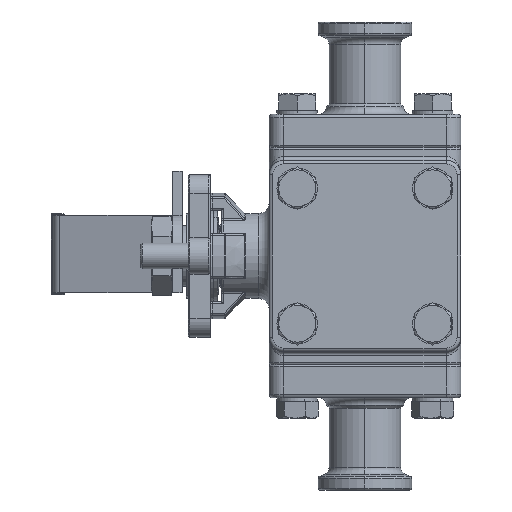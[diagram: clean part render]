
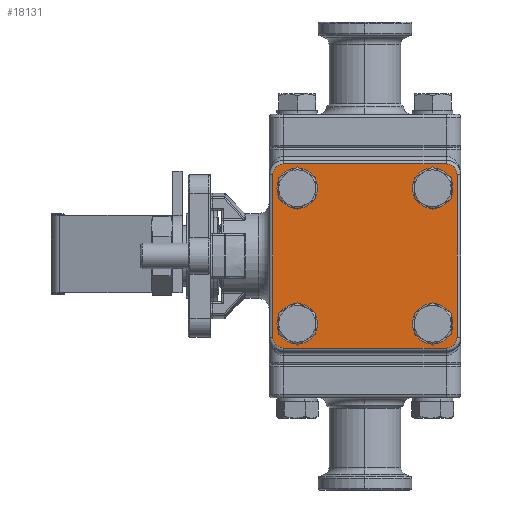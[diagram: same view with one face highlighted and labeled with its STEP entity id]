
A CAD part, left-side view. The second image highlights one B-rep face of the part: STEP entity #18131.
In plain terms, the highlighted planar face has unit normal (-1, 0, 0) as drawn and (0, 0, 1) by its records, which use the part's own axes.
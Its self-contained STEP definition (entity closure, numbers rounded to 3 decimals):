
#255 = ORIENTED_EDGE ( 'NONE', *, *, #20692, .F. ) ;
#262 = EDGE_CURVE ( 'NONE', #23547, #4030, #16100, .T. ) ;
#513 = AXIS2_PLACEMENT_3D ( 'NONE', #24172, #8201, #23720 ) ;
#992 = DIRECTION ( 'NONE',  ( 1., 0., 0. ) ) ;
#1148 = DIRECTION ( 'NONE',  ( 0., 0., 1. ) ) ;
#1431 = ORIENTED_EDGE ( 'NONE', *, *, #28093, .T. ) ;
#1566 = CARTESIAN_POINT ( 'NONE',  ( -14.635, -18.385, 5. ) ) ;
#1619 = CIRCLE ( 'NONE', #6574, 3. ) ;
#2749 = DIRECTION ( 'NONE',  ( 1., 0., 0. ) ) ;
#2792 = FACE_BOUND ( 'NONE', #15744, .T. ) ;
#2813 = AXIS2_PLACEMENT_3D ( 'NONE', #22323, #1148, #17128 ) ;
#2865 = CARTESIAN_POINT ( 'NONE',  ( -18.385, 18.385, 5. ) ) ;
#2910 = CARTESIAN_POINT ( 'NONE',  ( -25., 22., 5. ) ) ;
#3016 = DIRECTION ( 'NONE',  ( 0., 0., 1. ) ) ;
#3060 = EDGE_LOOP ( 'NONE', ( #10814, #14267 ) ) ;
#3167 = ORIENTED_EDGE ( 'NONE', *, *, #27118, .F. ) ;
#3293 = CARTESIAN_POINT ( 'NONE',  ( -18.385, 18.385, 5. ) ) ;
#3769 = AXIS2_PLACEMENT_3D ( 'NONE', #14746, #17194, #25535 ) ;
#4030 = VERTEX_POINT ( 'NONE', #16121 ) ;
#4070 = AXIS2_PLACEMENT_3D ( 'NONE', #23821, #18611, #2749 ) ;
#4075 = EDGE_CURVE ( 'NONE', #29163, #7287, #16773, .T. ) ;
#4419 = CARTESIAN_POINT ( 'NONE',  ( 22., -25., 5. ) ) ;
#4438 = FACE_BOUND ( 'NONE', #10188, .T. ) ;
#4711 = DIRECTION ( 'NONE',  ( 1., 0., 0. ) ) ;
#5237 = AXIS2_PLACEMENT_3D ( 'NONE', #21184, #5328, #11327 ) ;
#5328 = DIRECTION ( 'NONE',  ( 0., 0., 1. ) ) ;
#5832 = AXIS2_PLACEMENT_3D ( 'NONE', #16641, #8767, #19086 ) ;
#5901 = AXIS2_PLACEMENT_3D ( 'NONE', #2865, #13033, #21380 ) ;
#6574 = AXIS2_PLACEMENT_3D ( 'NONE', #12919, #12676, #4711 ) ;
#6676 = EDGE_LOOP ( 'NONE', ( #32317, #18529 ) ) ;
#7110 = ORIENTED_EDGE ( 'NONE', *, *, #4075, .T. ) ;
#7287 = VERTEX_POINT ( 'NONE', #34185 ) ;
#7591 = CARTESIAN_POINT ( 'NONE',  ( -22., 25., 5. ) ) ;
#8023 = EDGE_CURVE ( 'NONE', #25018, #27102, #11869, .T. ) ;
#8059 = CIRCLE ( 'NONE', #5832, 3.75 ) ;
#8201 = DIRECTION ( 'NONE',  ( 0., 0., 1. ) ) ;
#8767 = DIRECTION ( 'NONE',  ( 0., 0., 1. ) ) ;
#9287 = DIRECTION ( 'NONE',  ( -1., 0., 0. ) ) ;
#9641 = VERTEX_POINT ( 'NONE', #20491 ) ;
#9704 = CIRCLE ( 'NONE', #513, 3.75 ) ;
#9808 = VECTOR ( 'NONE', #9287, 1000. ) ;
#9965 = DIRECTION ( 'NONE',  ( 1., 0., 0. ) ) ;
#10086 = EDGE_CURVE ( 'NONE', #13960, #13378, #13476, .T. ) ;
#10188 = EDGE_LOOP ( 'NONE', ( #22709, #255 ) ) ;
#10439 = EDGE_CURVE ( 'NONE', #17347, #9641, #25074, .T. ) ;
#10671 = CIRCLE ( 'NONE', #20751, 3. ) ;
#10814 = ORIENTED_EDGE ( 'NONE', *, *, #262, .F. ) ;
#11151 = AXIS2_PLACEMENT_3D ( 'NONE', #3293, #16496, #992 ) ;
#11327 = DIRECTION ( 'NONE',  ( 1., 0., 0. ) ) ;
#11869 = CIRCLE ( 'NONE', #4070, 3. ) ;
#11934 = VERTEX_POINT ( 'NONE', #13267 ) ;
#12676 = DIRECTION ( 'NONE',  ( 0., 0., 1. ) ) ;
#12919 = CARTESIAN_POINT ( 'NONE',  ( -22., -22., 5. ) ) ;
#13033 = DIRECTION ( 'NONE',  ( 0., 0., 1. ) ) ;
#13078 = ORIENTED_EDGE ( 'NONE', *, *, #8023, .T. ) ;
#13267 = CARTESIAN_POINT ( 'NONE',  ( -22., 25., 5. ) ) ;
#13307 = DIRECTION ( 'NONE',  ( 1., 0., 0. ) ) ;
#13378 = VERTEX_POINT ( 'NONE', #13972 ) ;
#13476 = CIRCLE ( 'NONE', #2813, 3.75 ) ;
#13499 = CARTESIAN_POINT ( 'NONE',  ( 25., -22., 5. ) ) ;
#13960 = VERTEX_POINT ( 'NONE', #16838 ) ;
#13972 = CARTESIAN_POINT ( 'NONE',  ( 14.635, -18.385, 5. ) ) ;
#14267 = ORIENTED_EDGE ( 'NONE', *, *, #21609, .F. ) ;
#14557 = CARTESIAN_POINT ( 'NONE',  ( 22., 22., 5. ) ) ;
#14746 = CARTESIAN_POINT ( 'NONE',  ( 18.385, 18.385, 5. ) ) ;
#14873 = ORIENTED_EDGE ( 'NONE', *, *, #16961, .T. ) ;
#15234 = CARTESIAN_POINT ( 'NONE',  ( 22., 25., 5. ) ) ;
#15621 = AXIS2_PLACEMENT_3D ( 'NONE', #31455, #28886, #20632 ) ;
#15744 = EDGE_LOOP ( 'NONE', ( #3167, #29573 ) ) ;
#15985 = CARTESIAN_POINT ( 'NONE',  ( 22., -22., 5. ) ) ;
#16100 = CIRCLE ( 'NONE', #3769, 3.75 ) ;
#16102 = DIRECTION ( 'NONE',  ( 0., 0., 1. ) ) ;
#16121 = CARTESIAN_POINT ( 'NONE',  ( 22.135, 18.385, 5. ) ) ;
#16306 = VECTOR ( 'NONE', #21895, 1000. ) ;
#16496 = DIRECTION ( 'NONE',  ( 0., 0., 1. ) ) ;
#16516 = VERTEX_POINT ( 'NONE', #26904 ) ;
#16641 = CARTESIAN_POINT ( 'NONE',  ( 18.385, -18.385, 5. ) ) ;
#16773 = LINE ( 'NONE', #21692, #17613 ) ;
#16838 = CARTESIAN_POINT ( 'NONE',  ( 22.135, -18.385, 5. ) ) ;
#16961 = EDGE_CURVE ( 'NONE', #7287, #16516, #1619, .T. ) ;
#17109 = DIRECTION ( 'NONE',  ( 1., 0., 0. ) ) ;
#17128 = DIRECTION ( 'NONE',  ( 1., 0., 0. ) ) ;
#17151 = EDGE_CURVE ( 'NONE', #23822, #17467, #10671, .T. ) ;
#17194 = DIRECTION ( 'NONE',  ( 0., 0., 1. ) ) ;
#17347 = VERTEX_POINT ( 'NONE', #1566 ) ;
#17467 = VERTEX_POINT ( 'NONE', #15234 ) ;
#17613 = VECTOR ( 'NONE', #26813, 1000. ) ;
#18131 = ADVANCED_FACE ( 'NONE', ( #32686, #2792, #25615, #19764, #4438 ), #24336, .T. ) ;
#18529 = ORIENTED_EDGE ( 'NONE', *, *, #10086, .F. ) ;
#18611 = DIRECTION ( 'NONE',  ( 0., 0., 1. ) ) ;
#18732 = CARTESIAN_POINT ( 'NONE',  ( 14.635, 18.385, 5. ) ) ;
#19004 = CARTESIAN_POINT ( 'NONE',  ( -22., 22., 5. ) ) ;
#19086 = DIRECTION ( 'NONE',  ( 1., 0., 0. ) ) ;
#19205 = VERTEX_POINT ( 'NONE', #22304 ) ;
#19764 = FACE_BOUND ( 'NONE', #6676, .T. ) ;
#20491 = CARTESIAN_POINT ( 'NONE',  ( -22.135, -18.385, 5. ) ) ;
#20632 = DIRECTION ( 'NONE',  ( 1., 0., 0. ) ) ;
#20692 = EDGE_CURVE ( 'NONE', #19205, #25548, #31315, .T. ) ;
#20751 = AXIS2_PLACEMENT_3D ( 'NONE', #14557, #21613, #17109 ) ;
#21084 = CIRCLE ( 'NONE', #5901, 3.75 ) ;
#21122 = ORIENTED_EDGE ( 'NONE', *, *, #17151, .T. ) ;
#21184 = CARTESIAN_POINT ( 'NONE',  ( -18.385, -18.385, 5. ) ) ;
#21294 = DIRECTION ( 'NONE',  ( 1., 0., 0. ) ) ;
#21380 = DIRECTION ( 'NONE',  ( 1., 0., 0. ) ) ;
#21609 = EDGE_CURVE ( 'NONE', #4030, #23547, #23358, .T. ) ;
#21613 = DIRECTION ( 'NONE',  ( 0., 0., 1. ) ) ;
#21692 = CARTESIAN_POINT ( 'NONE',  ( -25., -22., 5. ) ) ;
#21866 = CIRCLE ( 'NONE', #29705, 3. ) ;
#21894 = CARTESIAN_POINT ( 'NONE',  ( -22.135, 18.385, 5. ) ) ;
#21895 = DIRECTION ( 'NONE',  ( 0., 1., 0. ) ) ;
#22304 = CARTESIAN_POINT ( 'NONE',  ( -14.635, 18.385, 5. ) ) ;
#22323 = CARTESIAN_POINT ( 'NONE',  ( 18.385, -18.385, 5. ) ) ;
#22709 = ORIENTED_EDGE ( 'NONE', *, *, #23577, .F. ) ;
#22916 = LINE ( 'NONE', #4419, #29155 ) ;
#23358 = CIRCLE ( 'NONE', #15621, 3.75 ) ;
#23547 = VERTEX_POINT ( 'NONE', #18732 ) ;
#23577 = EDGE_CURVE ( 'NONE', #25548, #19205, #21084, .T. ) ;
#23720 = DIRECTION ( 'NONE',  ( 1., 0., 0. ) ) ;
#23821 = CARTESIAN_POINT ( 'NONE',  ( 22., -22., 5. ) ) ;
#23822 = VERTEX_POINT ( 'NONE', #25675 ) ;
#23864 = ORIENTED_EDGE ( 'NONE', *, *, #24567, .T. ) ;
#24172 = CARTESIAN_POINT ( 'NONE',  ( -18.385, -18.385, 5. ) ) ;
#24336 = PLANE ( 'NONE',  #30788 ) ;
#24567 = EDGE_CURVE ( 'NONE', #11934, #29163, #21866, .T. ) ;
#25018 = VERTEX_POINT ( 'NONE', #31810 ) ;
#25029 = CARTESIAN_POINT ( 'NONE',  ( 25., 22., 5. ) ) ;
#25074 = CIRCLE ( 'NONE', #5237, 3.75 ) ;
#25473 = ORIENTED_EDGE ( 'NONE', *, *, #33840, .T. ) ;
#25535 = DIRECTION ( 'NONE',  ( 1., 0., 0. ) ) ;
#25548 = VERTEX_POINT ( 'NONE', #21894 ) ;
#25615 = FACE_BOUND ( 'NONE', #3060, .T. ) ;
#25675 = CARTESIAN_POINT ( 'NONE',  ( 25., 22., 5. ) ) ;
#26053 = LINE ( 'NONE', #7591, #9808 ) ;
#26813 = DIRECTION ( 'NONE',  ( 0., -1., 0. ) ) ;
#26904 = CARTESIAN_POINT ( 'NONE',  ( -22., -25., 5. ) ) ;
#27102 = VERTEX_POINT ( 'NONE', #13499 ) ;
#27118 = EDGE_CURVE ( 'NONE', #9641, #17347, #9704, .T. ) ;
#27193 = EDGE_CURVE ( 'NONE', #13378, #13960, #8059, .T. ) ;
#28093 = EDGE_CURVE ( 'NONE', #16516, #25018, #22916, .T. ) ;
#28541 = EDGE_CURVE ( 'NONE', #27102, #23822, #31238, .T. ) ;
#28886 = DIRECTION ( 'NONE',  ( 0., 0., 1. ) ) ;
#29155 = VECTOR ( 'NONE', #9965, 1000. ) ;
#29163 = VERTEX_POINT ( 'NONE', #2910 ) ;
#29573 = ORIENTED_EDGE ( 'NONE', *, *, #10439, .F. ) ;
#29705 = AXIS2_PLACEMENT_3D ( 'NONE', #19004, #3016, #21294 ) ;
#30735 = ORIENTED_EDGE ( 'NONE', *, *, #28541, .T. ) ;
#30788 = AXIS2_PLACEMENT_3D ( 'NONE', #15985, #16102, #13307 ) ;
#31176 = EDGE_LOOP ( 'NONE', ( #30735, #21122, #25473, #23864, #7110, #14873, #1431, #13078 ) ) ;
#31238 = LINE ( 'NONE', #25029, #16306 ) ;
#31315 = CIRCLE ( 'NONE', #11151, 3.75 ) ;
#31455 = CARTESIAN_POINT ( 'NONE',  ( 18.385, 18.385, 5. ) ) ;
#31810 = CARTESIAN_POINT ( 'NONE',  ( 22., -25., 5. ) ) ;
#32317 = ORIENTED_EDGE ( 'NONE', *, *, #27193, .F. ) ;
#32686 = FACE_OUTER_BOUND ( 'NONE', #31176, .T. ) ;
#33840 = EDGE_CURVE ( 'NONE', #17467, #11934, #26053, .T. ) ;
#34185 = CARTESIAN_POINT ( 'NONE',  ( -25., -22., 5. ) ) ;
